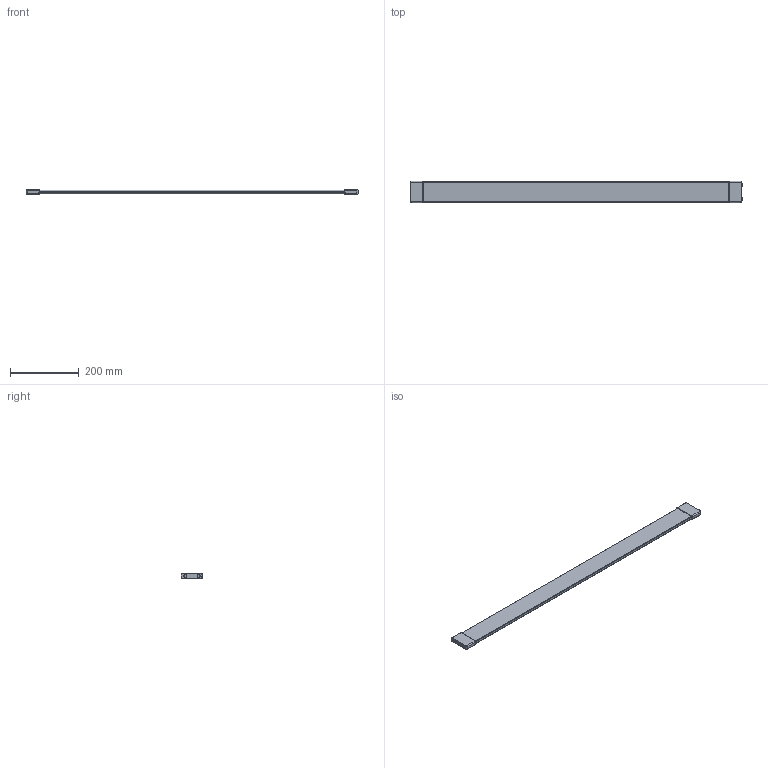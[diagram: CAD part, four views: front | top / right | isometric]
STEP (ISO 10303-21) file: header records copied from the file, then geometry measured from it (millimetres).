
FILE_DESCRIPTION (( 'STEP AP214' ), '1' );
FILE_NAME ('Schubkastenteiler_PROKAB_1050.step', '2009-11-04T15:16:56', ( 'Waldinger Reinhard' ), ( 'Grass GmbH' ), 'SwSTEP 2.0', 'SolidWorks 2009', '' );
FILE_SCHEMA (( 'AUTOMOTIVE_DESIGN' ));
Length unit declared in the file: millimetre
Products named in the file (1): Schubkastenteiler_PROKAB_1050
Bounding box: 967.9 x 63.7 x 13 mm (x, y, z)
Volume: 580888.9 mm3; surface area: 134146.9 mm2
Topology: 1 solids, 1 shells, 92 faces, 208 edges, 124 vertices
Faces by surface type: cylinder 38, torus 28, plane 22, bspline 4
Entity records: 3210 total; most frequent: CARTESIAN_POINT 1069, DIRECTION 486, ORIENTED_EDGE 416, EDGE_CURVE 208, AXIS2_PLACEMENT_3D 205, VERTEX_POINT 124, CIRCLE 116, EDGE_LOOP 98
